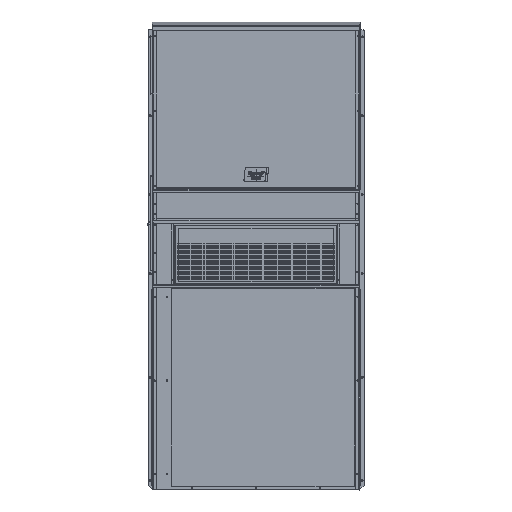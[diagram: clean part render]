
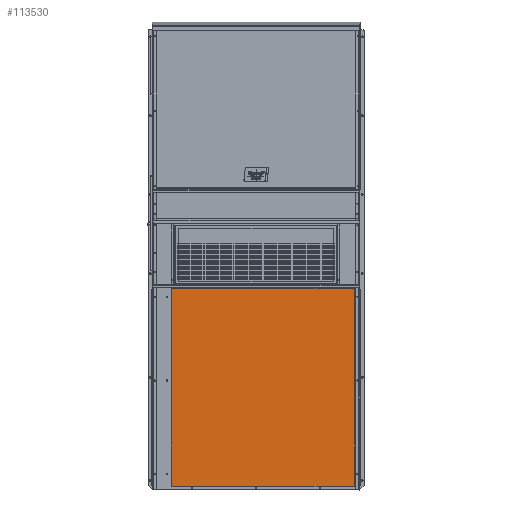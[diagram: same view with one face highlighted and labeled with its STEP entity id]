
A CAD part, top view. The second image highlights one B-rep face of the part: STEP entity #113530.
In plain terms, the highlighted planar face has unit normal (0, 0, 1).
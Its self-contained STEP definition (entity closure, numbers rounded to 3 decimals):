
#13237 = LINE ( 'NONE', #112291, #34047 ) ;
#19410 = VECTOR ( 'NONE', #68038, 39.37 ) ;
#22708 = ORIENTED_EDGE ( 'NONE', *, *, #43313, .T. ) ;
#26094 = DIRECTION ( 'NONE',  ( 0., 0., -1. ) ) ;
#30905 = VERTEX_POINT ( 'NONE', #94818 ) ;
#31469 = EDGE_CURVE ( 'NONE', #86189, #70394, #104363, .T. ) ;
#34047 = VECTOR ( 'NONE', #59039, 39.37 ) ;
#35507 = LINE ( 'NONE', #48095, #103548 ) ;
#37291 = VERTEX_POINT ( 'NONE', #97538 ) ;
#39215 = DIRECTION ( 'NONE',  ( -1., 0., 0. ) ) ;
#41297 = CARTESIAN_POINT ( 'NONE',  ( 3.696, 40.075, 0.109 ) ) ;
#42909 = ORIENTED_EDGE ( 'NONE', *, *, #108809, .T. ) ;
#43313 = EDGE_CURVE ( 'NONE', #30905, #86189, #13237, .T. ) ;
#47361 = DIRECTION ( 'NONE',  ( 0., 1., 0. ) ) ;
#48095 = CARTESIAN_POINT ( 'NONE',  ( 3.696, 40.075, 0.109 ) ) ;
#49223 = ORIENTED_EDGE ( 'NONE', *, *, #96837, .T. ) ;
#53197 = CARTESIAN_POINT ( 'NONE',  ( 40.769, 40.075, 0.109 ) ) ;
#56482 = EDGE_LOOP ( 'NONE', ( #42909, #49223, #22708, #64370 ) ) ;
#57118 = VECTOR ( 'NONE', #47361, 39.37 ) ;
#59039 = DIRECTION ( 'NONE',  ( 1., 0., 0. ) ) ;
#61421 = PLANE ( 'NONE',  #89268 ) ;
#64370 = ORIENTED_EDGE ( 'NONE', *, *, #31469, .T. ) ;
#66650 = LINE ( 'NONE', #41297, #19410 ) ;
#68038 = DIRECTION ( 'NONE',  ( 0., -1., 0. ) ) ;
#70394 = VERTEX_POINT ( 'NONE', #53197 ) ;
#86189 = VERTEX_POINT ( 'NONE', #86249 ) ;
#86249 = CARTESIAN_POINT ( 'NONE',  ( 40.769, -0.068, 0.109 ) ) ;
#88246 = DIRECTION ( 'NONE',  ( -1., 0., 0. ) ) ;
#89268 = AXIS2_PLACEMENT_3D ( 'NONE', #105685, #26094, #88246 ) ;
#94818 = CARTESIAN_POINT ( 'NONE',  ( 3.696, -0.068, 0.109 ) ) ;
#96837 = EDGE_CURVE ( 'NONE', #37291, #30905, #66650, .T. ) ;
#97538 = CARTESIAN_POINT ( 'NONE',  ( 3.696, 40.075, 0.109 ) ) ;
#103548 = VECTOR ( 'NONE', #39215, 39.37 ) ;
#104363 = LINE ( 'NONE', #109148, #57118 ) ;
#105685 = CARTESIAN_POINT ( 'NONE',  ( -0.425, 40.631, 0.109 ) ) ;
#108809 = EDGE_CURVE ( 'NONE', #70394, #37291, #35507, .T. ) ;
#109148 = CARTESIAN_POINT ( 'NONE',  ( 40.769, 40.075, 0.109 ) ) ;
#112291 = CARTESIAN_POINT ( 'NONE',  ( 3.696, -0.068, 0.109 ) ) ;
#113530 = ADVANCED_FACE ( 'NONE', ( #114166 ), #61421, .F. ) ;
#114166 = FACE_OUTER_BOUND ( 'NONE', #56482, .T. ) ;
